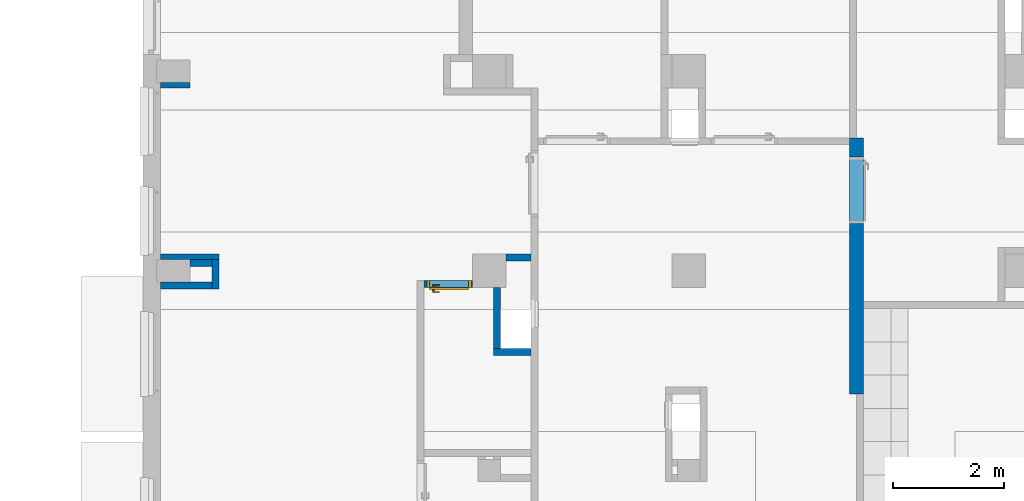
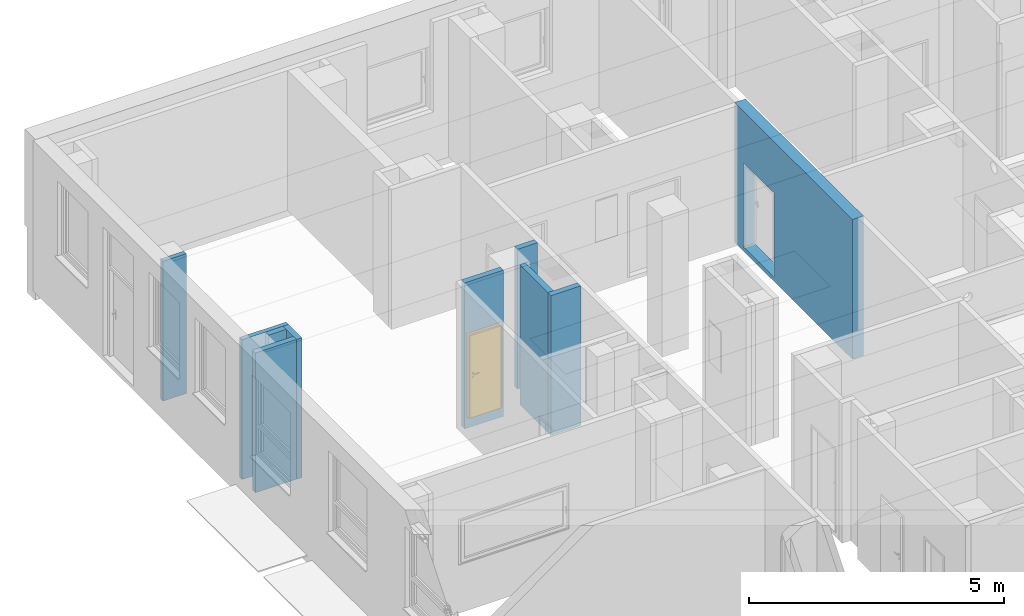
# One storey, part 48 of 140: 10 walls, 1 door, 2 openings.
"""IFC4 building model written with IfcOpenShell, lengths in metres."""

from ifc_helpers import new_model, entity, si_unit, converted_unit, derived_unit, frame, frame_2d, origin, origin_with_axes, place, context, subcontext, project, spatial, polyline, rectangle, outline, extrude, closed_shell, open_shell, surface_model, source, transform, mapped, material, layer, layer_set, layer_usage, type_object, element, fill, save


model = new_model("IFC4")

# Units and contexts
model_context = context("Model", 3, precision=1e-05, world=origin())
body_context = subcontext(model_context, "Body", "Model", "MODEL_VIEW")
ifc_project = project(units=[si_unit("LENGTHUNIT", "METRE"), si_unit("AREAUNIT", "SQUARE_METRE"), si_unit("VOLUMEUNIT", "CUBIC_METRE"), si_unit("MASSUNIT", "GRAM", prefix="KILO"), converted_unit("PLANEANGLEUNIT", "DEGREE", entity("IfcPlaneAngleMeasure", 0.0174532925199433), si_unit("PLANEANGLEUNIT", "RADIAN"), dimensions=[0, 0, 0, 0, 0, 0, 0]), derived_unit("THERMALTRANSMITTANCEUNIT", [(si_unit("POWERUNIT", "WATT"), 1), (si_unit("THERMODYNAMICTEMPERATUREUNIT", "KELVIN"), -1), (si_unit("LENGTHUNIT", "METRE"), -2)]), derived_unit("VOLUMETRICFLOWRATEUNIT", [(si_unit("LENGTHUNIT", "METRE"), 3), (converted_unit("TIMEUNIT", "hour", entity("IfcTimeMeasure", 3600.0), si_unit("TIMEUNIT", "SECOND"), dimensions=[0, 0, 1, 0, 0, 0, 0]), -1), (si_unit("LENGTHUNIT", "METRE"), -1)])], contexts=[model_context])

# Site, building, storey
site_placement = place(None, origin())
site = spatial("IfcSite", under=ifc_project, at=site_placement, Name="3. ASŘ", CompositionType="ELEMENT")
building_placement = place(site_placement, origin())
building = spatial("IfcBuilding", under=site, at=building_placement, Name="Pavilon C", CompositionType="ELEMENT")
storey_placement = place(building_placement, origin())
storey = spatial("IfcBuildingStorey", under=building, at=storey_placement, Name="Půdorys 1.NP", CompositionType="ELEMENT", Elevation=0.0)

# Wall, opening
ifc_material_1 = material(Name="ZDIVO Z CDm")
ifc_layer_1 = layer(ifc_material_1, 0.25)
ifc_layer_set_1 = layer_set([ifc_layer_1])
ifc_layer_usage_1 = layer_usage(ifc_layer_set_1, "AXIS2", "POSITIVE", 0.0)
wall_1_placement = place(storey_placement, frame((37.5, 22.975, -0.1), z_axis=(0.0, 0.0, 1.0), x_axis=(0.0, 1.0, 0.0)))
wall_1 = element("IfcWall", 1, at=wall_1_placement, inside=storey, material=ifc_layer_usage_1, Name="ZDIVO Z CDm", context=body_context, shape_type="SweptSolid", body=[
    extrude(rectangle(XDim=4.62499999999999, YDim=0.25, at=frame_2d((2.3125, 0.125), x_axis=(1.0, 0.0))), origin_with_axes(), (0.0, 0.0, 1.0), 3.35),
])
opening_1_placement = place(wall_1_placement, frame((3.07499999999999, 0.0, 0.1), z_axis=(0.0, 1.0, 0.0), x_axis=(0.0, 0.0, 1.0)))
element("IfcOpeningElement", 2, at=opening_1_placement, cuts=wall_1, Name="Dveřní otvor", ObjectType="Opening", context=body_context, shape_type="SweptSolid", body=[
    extrude(outline(polyline([(0.0, 1.2), (2.02, 1.2), (2.02, 0.0), (0.0, 0.0), (0.0, 1.2)])), origin_with_axes(), (0.0, 0.0, 1.0), 0.25),
])

# Walls
ifc_material_2 = material(Name="ZDIVO Z CDm")
ifc_layer_2 = layer(ifc_material_2, 0.125)
ifc_layer_set_2 = layer_set([ifc_layer_2])
ifc_layer_usage_2 = layer_usage(ifc_layer_set_2, "AXIS2", "POSITIVE", 0.0)
wall_2_placement = place(storey_placement, frame((31.5, 23.8, -0.1), z_axis=(0.0, 0.0, 1.0), x_axis=(-1.0, 0.0, 0.0)))
element("IfcWall", 3, at=wall_2_placement, inside=storey, material=ifc_layer_usage_2, Name="ZDIVO Z CDm", context=body_context, shape_type="SweptSolid", body=[
    extrude(rectangle(XDim=0.675, YDim=0.125, at=frame_2d((0.3375, 0.0625), x_axis=(1.0, 0.0))), origin_with_axes(), (0.0, 0.0, 1.0), 3.35),
])
ifc_material_3 = material(Name="ZDIVO Z CDm")
ifc_layer_3 = layer(ifc_material_3, 0.125)
ifc_layer_set_3 = layer_set([ifc_layer_3])
ifc_layer_usage_3 = layer_usage(ifc_layer_set_3, "AXIS2", "POSITIVE", 0.0)
wall_3_placement = place(storey_placement, frame((30.95, 23.8, -0.1), z_axis=(0.0, 0.0, 1.0), x_axis=(0.0, 1.0, 0.0)))
element("IfcWall", 4, at=wall_3_placement, inside=storey, material=ifc_layer_usage_3, Name="ZDIVO Z CDm", context=body_context, shape_type="SweptSolid", body=[
    extrude(rectangle(XDim=1.1, YDim=0.125, at=frame_2d((0.55, 0.0625), x_axis=(1.0, 0.0))), origin_with_axes(), (0.0, 0.0, 1.0), 3.35),
])
ifc_material_4 = material(Name="ZDIVO Z CDm")
ifc_layer_4 = layer(ifc_material_4, 0.125)
ifc_layer_set_4 = layer_set([ifc_layer_4])
ifc_layer_usage_4 = layer_usage(ifc_layer_set_4, "AXIS2", "POSITIVE", 0.0)
wall_4_placement = place(storey_placement, frame((31.5, 25.5, -0.1), z_axis=(0.0, 0.0, 1.0), x_axis=(-1.0, 0.0, 0.0)))
element("IfcWall", 5, at=wall_4_placement, inside=storey, material=ifc_layer_usage_4, Name="ZDIVO Z CDm", context=body_context, shape_type="SweptSolid", body=[
    extrude(rectangle(XDim=0.449999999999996, YDim=0.125, at=frame_2d((0.224999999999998, 0.0625), x_axis=(1.0, 0.0))), origin_with_axes(), (0.0, 0.0, 1.0), 3.35),
])

# Wall, opening, door
ifc_material_5 = material(Name="YTONG 125")
ifc_layer_5 = layer(ifc_material_5, 0.125)
ifc_layer_set_5 = layer_set([ifc_layer_5])
ifc_layer_usage_5 = layer_usage(ifc_layer_set_5, "AXIS2", "POSITIVE", 0.0)
wall_5_placement = place(storey_placement, frame((29.575, 24.9, -0.25)))
wall_5 = element("IfcWall", 6, at=wall_5_placement, inside=storey, material=ifc_layer_usage_5, Name="YTONG 125", context=body_context, shape_type="SweptSolid", body=[
    extrude(rectangle(XDim=0.875000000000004, YDim=0.125, at=frame_2d((0.437500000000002, 0.0625), x_axis=(1.0, 0.0))), origin_with_axes(), (0.0, 0.0, 1.0), 3.5),
])
opening_2_placement = place(wall_5_placement, frame((0.05, 0.0, 0.25), z_axis=(0.0, 1.0, 0.0), x_axis=(0.0, 0.0, 1.0)))
opening_2 = element("IfcOpeningElement", 7, at=opening_2_placement, cuts=wall_5, Name="Dveřní otvor", ObjectType="Opening", context=body_context, shape_type="SweptSolid", body=[
    extrude(outline(polyline([(0.0, 0.8), (2.02, 0.8), (2.02, 0.0), (0.0, 0.0), (0.0, 0.8)])), origin_with_axes(), (0.0, 0.0, 1.0), 0.125),
])
door_type = type_object("IfcDoorType", Name="D101", OperationType="NOTDEFINED", ParameterTakesPrecedence=False, PredefinedType="DOOR")
shared_shape = source(origin_with_axes(), body_context, "Body", "SurfaceModel", [
    surface_model("IfcShellBasedSurfaceModel", [(0.0, 0.125, 2.02), (0.0, 0.125, -7.65404249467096e-18), (0.05, 0.125, -7.65404249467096e-18), (0.05, 0.125, 2.02), (0.0, 0.0, 7.65404249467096e-18), (0.0, 2.41584530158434e-16, 2.02), (0.05, 2.41584530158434e-16, 2.02), (0.05, 0.0, 7.65404249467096e-18)], [closed_shell([[[0, 1, 2, 3]], [[4, 5, 6, 7]], [[1, 0, 5, 4]], [[2, 1, 4, 7]], [[3, 2, 7, 6]], [[0, 3, 6, 5]]], orient=[[False], [False], [False], [False], [False], [False]])]),
    surface_model("IfcShellBasedSurfaceModel", [(0.75, 0.125, 2.02), (0.75, 0.125, -7.65404249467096e-18), (0.8, 0.125, -7.65404249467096e-18), (0.8, 0.125, 2.02), (0.75, 0.0, 7.65404249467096e-18), (0.75, 2.41584530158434e-16, 2.02), (0.8, 2.41584530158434e-16, 2.02), (0.8, 0.0, 7.65404249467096e-18)], [closed_shell([[[0, 1, 2, 3]], [[4, 5, 6, 7]], [[1, 0, 5, 4]], [[2, 1, 4, 7]], [[3, 2, 7, 6]], [[0, 3, 6, 5]]], orient=[[False], [False], [False], [False], [False], [False]])]),
    surface_model("IfcShellBasedSurfaceModel", [(0.05, 0.125, 2.02), (0.05, 0.125, 1.97), (0.75, 0.125, 1.97), (0.75, 0.125, 2.02), (0.05, 2.41584530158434e-16, 1.97), (0.05, 2.41584530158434e-16, 2.02), (0.75, 2.41584530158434e-16, 2.02), (0.75, 2.41584530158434e-16, 1.97)], [closed_shell([[[0, 1, 2, 3]], [[4, 5, 6, 7]], [[1, 0, 5, 4]], [[2, 1, 4, 7]], [[3, 2, 7, 6]], [[0, 3, 6, 5]]], orient=[[False], [False], [False], [False], [False], [False]])]),
    surface_model("IfcShellBasedSurfaceModel", [(0.05, 0.165, 1.97), (0.05, 0.165, -1.25526296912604e-17), (0.75, 0.165, -1.25526296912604e-17), (0.75, 0.165, 1.97), (0.05, 0.125, -7.65404249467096e-18), (0.05, 0.125, 1.97), (0.75, 0.125, 1.97), (0.75, 0.125, -7.65404249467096e-18)], [closed_shell([[[0, 1, 2, 3]], [[4, 5, 6, 7]], [[1, 0, 5, 4]], [[2, 1, 4, 7]], [[3, 2, 7, 6]], [[0, 3, 6, 5]]], orient=[[False], [False], [False], [False], [False], [False]])]),
    surface_model("IfcShellBasedSurfaceModel", [(0.708815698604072, 0.125, 0.93625), (0.7125, 0.125, 0.95), (0.708815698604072, 0.125, 0.96375), (0.69875, 0.125, 0.973815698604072), (0.685, 0.125, 0.9775), (0.67125, 0.125, 0.973815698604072), (0.661184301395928, 0.125, 0.96375), (0.6575, 0.125, 0.95), (0.661184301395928, 0.125, 0.93625), (0.67125, 0.125, 0.926184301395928), (0.685, 0.125, 0.9225), (0.69875, 0.125, 0.926184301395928), (0.7125, 0.1125, 0.95), (0.708815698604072, 0.1125, 0.93625), (0.69875, 0.1125, 0.926184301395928), (0.685, 0.1125, 0.9225), (0.67125, 0.1125, 0.926184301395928), (0.661184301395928, 0.1125, 0.93625), (0.6575, 0.1125, 0.95), (0.661184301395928, 0.1125, 0.96375), (0.67125, 0.1125, 0.973815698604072), (0.685, 0.1125, 0.9775), (0.69875, 0.1125, 0.973815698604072), (0.708815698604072, 0.1125, 0.96375)], [closed_shell([[[0, 1, 2, 3, 4, 5, 6, 7, 8, 9, 10, 11]], [[12, 13, 14, 15, 16, 17, 18, 19, 20, 21, 22, 23]], [[1, 0, 13, 12]], [[2, 1, 12, 23]], [[3, 2, 23, 22]], [[4, 3, 22, 21]], [[5, 4, 21, 20]], [[6, 5, 20, 19]], [[7, 6, 19, 18]], [[8, 7, 18, 17]], [[9, 8, 17, 16]], [[10, 9, 16, 15]], [[11, 10, 15, 14]], [[0, 11, 14, 13]]], orient=[[False], [False], [False], [False], [False], [False], [False], [False], [False], [False], [False], [False], [False], [False]])]),
    surface_model("IfcShellBasedSurfaceModel", [(0.708815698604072, 0.125, 1.03625), (0.7125, 0.125, 1.05), (0.708815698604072, 0.125, 1.06375), (0.69875, 0.125, 1.07381569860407), (0.685, 0.125, 1.0775), (0.67125, 0.125, 1.07381569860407), (0.661184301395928, 0.125, 1.06375), (0.6575, 0.125, 1.05), (0.661184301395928, 0.125, 1.03625), (0.67125, 0.125, 1.02618430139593), (0.685, 0.125, 1.0225), (0.69875, 0.125, 1.02618430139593), (0.7125, 0.1125, 1.05), (0.708815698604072, 0.1125, 1.03625), (0.69875, 0.1125, 1.02618430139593), (0.685, 0.1125, 1.0225), (0.67125, 0.1125, 1.02618430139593), (0.661184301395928, 0.1125, 1.03625), (0.6575, 0.1125, 1.05), (0.661184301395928, 0.1125, 1.06375), (0.67125, 0.1125, 1.07381569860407), (0.685, 0.1125, 1.0775), (0.69875, 0.1125, 1.07381569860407), (0.708815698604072, 0.1125, 1.06375)], [closed_shell([[[0, 1, 2, 3, 4, 5, 6, 7, 8, 9, 10, 11]], [[12, 13, 14, 15, 16, 17, 18, 19, 20, 21, 22, 23]], [[1, 0, 13, 12]], [[2, 1, 12, 23]], [[3, 2, 23, 22]], [[4, 3, 22, 21]], [[5, 4, 21, 20]], [[6, 5, 20, 19]], [[7, 6, 19, 18]], [[8, 7, 18, 17]], [[9, 8, 17, 16]], [[10, 9, 16, 15]], [[11, 10, 15, 14]], [[0, 11, 14, 13]]], orient=[[False], [False], [False], [False], [False], [False], [False], [False], [False], [False], [False], [False], [False], [False]])]),
    surface_model("IfcShellBasedSurfaceModel", [(0.685, 0.125, 1.06), (0.68, 0.125, 1.05866025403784), (0.676339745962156, 0.125, 1.055), (0.675, 0.125, 1.05), (0.676339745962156, 0.125, 1.045), (0.68, 0.125, 1.04133974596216), (0.685, 0.125, 1.04), (0.69, 0.125, 1.04133974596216), (0.693660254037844, 0.125, 1.045), (0.695, 0.125, 1.05), (0.693660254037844, 0.125, 1.055), (0.69, 0.125, 1.05866025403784), (0.69, 0.0800000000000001, 1.05866025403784), (0.685, 0.0850000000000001, 1.06), (0.693660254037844, 0.0763397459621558, 1.055), (0.695, 0.0750000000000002, 1.05), (0.693660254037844, 0.0763397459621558, 1.045), (0.69, 0.0800000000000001, 1.04133974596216), (0.685, 0.0850000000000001, 1.04), (0.68, 0.0900000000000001, 1.04133974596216), (0.676339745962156, 0.0936602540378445, 1.045), (0.675, 0.0950000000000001, 1.05), (0.676339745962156, 0.0936602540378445, 1.055), (0.68, 0.0900000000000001, 1.05866025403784), (0.57, 0.0800000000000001, 1.05866025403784), (0.57, 0.0850000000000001, 1.06), (0.57, 0.0763397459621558, 1.055), (0.57, 0.0750000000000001, 1.05), (0.57, 0.0763397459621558, 1.045), (0.57, 0.0800000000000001, 1.04133974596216), (0.57, 0.0850000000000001, 1.04), (0.57, 0.0900000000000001, 1.04133974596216), (0.57, 0.0936602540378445, 1.045), (0.57, 0.0950000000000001, 1.05), (0.57, 0.0936602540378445, 1.055), (0.57, 0.0900000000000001, 1.05866025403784)], [open_shell([[[0, 1, 2, 3, 4, 5, 6, 7, 8, 9, 10, 11]], [[0, 11, 12, 13]], [[11, 10, 14, 12]], [[10, 9, 15, 14]], [[9, 8, 16, 15]], [[8, 7, 17, 16]], [[7, 6, 18, 17]], [[6, 5, 19, 18]], [[5, 4, 20, 19]], [[4, 3, 21, 20]], [[3, 2, 22, 21]], [[2, 1, 23, 22]], [[1, 0, 13, 23]], [[13, 12, 24, 25]], [[12, 14, 26, 24]], [[14, 15, 27, 26]], [[15, 16, 28, 27]], [[16, 17, 29, 28]], [[17, 18, 30, 29]], [[18, 19, 31, 30]], [[19, 20, 32, 31]], [[20, 21, 33, 32]], [[21, 22, 34, 33]], [[22, 23, 35, 34]], [[23, 13, 25, 35]]], orient=[[False], [False], [False], [False], [False], [False], [False], [False], [False], [False], [False], [False], [False], [False], [False], [False], [False], [False], [False], [False], [False], [False], [False], [False], [False]])]),
    surface_model("IfcShellBasedSurfaceModel", [(0.708815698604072, 0.165, 0.93625), (0.69875, 0.165, 0.926184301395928), (0.685, 0.165, 0.9225), (0.67125, 0.165, 0.926184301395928), (0.661184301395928, 0.165, 0.93625), (0.6575, 0.165, 0.95), (0.661184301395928, 0.165, 0.96375), (0.67125, 0.165, 0.973815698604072), (0.685, 0.165, 0.9775), (0.69875, 0.165, 0.973815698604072), (0.708815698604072, 0.165, 0.96375), (0.7125, 0.165, 0.95), (0.7125, 0.1775, 0.95), (0.708815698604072, 0.1775, 0.96375), (0.69875, 0.1775, 0.973815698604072), (0.685, 0.1775, 0.9775), (0.67125, 0.1775, 0.973815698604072), (0.661184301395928, 0.1775, 0.96375), (0.6575, 0.1775, 0.95), (0.661184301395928, 0.1775, 0.93625), (0.67125, 0.1775, 0.926184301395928), (0.685, 0.1775, 0.9225), (0.69875, 0.1775, 0.926184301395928), (0.708815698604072, 0.1775, 0.93625)], [closed_shell([[[0, 1, 2, 3, 4, 5, 6, 7, 8, 9, 10, 11]], [[12, 13, 14, 15, 16, 17, 18, 19, 20, 21, 22, 23]], [[11, 12, 23, 0]], [[10, 13, 12, 11]], [[9, 14, 13, 10]], [[8, 15, 14, 9]], [[7, 16, 15, 8]], [[6, 17, 16, 7]], [[5, 18, 17, 6]], [[4, 19, 18, 5]], [[3, 20, 19, 4]], [[2, 21, 20, 3]], [[1, 22, 21, 2]], [[0, 23, 22, 1]]], orient=[[False], [False], [False], [False], [False], [False], [False], [False], [False], [False], [False], [False], [False], [False]])]),
    surface_model("IfcShellBasedSurfaceModel", [(0.708815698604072, 0.165, 1.03625), (0.69875, 0.165, 1.02618430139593), (0.685, 0.165, 1.0225), (0.67125, 0.165, 1.02618430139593), (0.661184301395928, 0.165, 1.03625), (0.6575, 0.165, 1.05), (0.661184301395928, 0.165, 1.06375), (0.67125, 0.165, 1.07381569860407), (0.685, 0.165, 1.0775), (0.69875, 0.165, 1.07381569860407), (0.708815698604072, 0.165, 1.06375), (0.7125, 0.165, 1.05), (0.7125, 0.1775, 1.05), (0.708815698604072, 0.1775, 1.06375), (0.69875, 0.1775, 1.07381569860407), (0.685, 0.1775, 1.0775), (0.67125, 0.1775, 1.07381569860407), (0.661184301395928, 0.1775, 1.06375), (0.6575, 0.1775, 1.05), (0.661184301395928, 0.1775, 1.03625), (0.67125, 0.1775, 1.02618430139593), (0.685, 0.1775, 1.0225), (0.69875, 0.1775, 1.02618430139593), (0.708815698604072, 0.1775, 1.03625)], [closed_shell([[[0, 1, 2, 3, 4, 5, 6, 7, 8, 9, 10, 11]], [[12, 13, 14, 15, 16, 17, 18, 19, 20, 21, 22, 23]], [[11, 12, 23, 0]], [[10, 13, 12, 11]], [[9, 14, 13, 10]], [[8, 15, 14, 9]], [[7, 16, 15, 8]], [[6, 17, 16, 7]], [[5, 18, 17, 6]], [[4, 19, 18, 5]], [[3, 20, 19, 4]], [[2, 21, 20, 3]], [[1, 22, 21, 2]], [[0, 23, 22, 1]]], orient=[[False], [False], [False], [False], [False], [False], [False], [False], [False], [False], [False], [False], [False], [False]])]),
    surface_model("IfcShellBasedSurfaceModel", [(0.685, 0.165, 1.06), (0.69, 0.165, 1.05866025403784), (0.693660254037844, 0.165, 1.055), (0.695, 0.165, 1.05), (0.693660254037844, 0.165, 1.045), (0.69, 0.165, 1.04133974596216), (0.685, 0.165, 1.04), (0.68, 0.165, 1.04133974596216), (0.676339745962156, 0.165, 1.045), (0.675, 0.165, 1.05), (0.676339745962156, 0.165, 1.055), (0.68, 0.165, 1.05866025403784), (0.685, 0.205, 1.06), (0.69, 0.21, 1.05866025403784), (0.693660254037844, 0.213660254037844, 1.055), (0.695, 0.215, 1.05), (0.693660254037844, 0.213660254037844, 1.045), (0.69, 0.21, 1.04133974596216), (0.685, 0.205, 1.04), (0.68, 0.2, 1.04133974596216), (0.676339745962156, 0.196339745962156, 1.045), (0.675, 0.195, 1.05), (0.676339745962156, 0.196339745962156, 1.055), (0.68, 0.2, 1.05866025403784), (0.57, 0.205, 1.06), (0.57, 0.21, 1.05866025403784), (0.57, 0.213660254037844, 1.055), (0.57, 0.215, 1.05), (0.57, 0.213660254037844, 1.045), (0.57, 0.21, 1.04133974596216), (0.57, 0.205, 1.04), (0.57, 0.2, 1.04133974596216), (0.57, 0.196339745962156, 1.045), (0.57, 0.195, 1.05), (0.57, 0.196339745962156, 1.055), (0.57, 0.2, 1.05866025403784)], [open_shell([[[0, 1, 2, 3, 4, 5, 6, 7, 8, 9, 10, 11]], [[0, 12, 13, 1]], [[1, 13, 14, 2]], [[2, 14, 15, 3]], [[3, 15, 16, 4]], [[4, 16, 17, 5]], [[5, 17, 18, 6]], [[6, 18, 19, 7]], [[7, 19, 20, 8]], [[8, 20, 21, 9]], [[9, 21, 22, 10]], [[10, 22, 23, 11]], [[11, 23, 12, 0]], [[12, 24, 25, 13]], [[13, 25, 26, 14]], [[14, 26, 27, 15]], [[15, 27, 28, 16]], [[16, 28, 29, 17]], [[17, 29, 30, 18]], [[18, 30, 31, 19]], [[19, 31, 32, 20]], [[20, 32, 33, 21]], [[21, 33, 34, 22]], [[22, 34, 35, 23]], [[23, 35, 24, 12]]], orient=[[False], [False], [False], [False], [False], [False], [False], [False], [False], [False], [False], [False], [False], [False], [False], [False], [False], [False], [False], [False], [False], [False], [False], [False], [False]])]),
])
door_placement = place(opening_2_placement, frame((0.0, 0.8, 0.125), z_axis=(1.0, 0.0, 0.0), x_axis=(0.0, -1.0, 1.22464679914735e-16)))
door = element("IfcDoor", 8, at=door_placement, inside=storey, type_object=door_type, Name="D101", OverallHeight=2.02, OverallWidth=0.8, context=body_context, shape_type="MappedRepresentation", body=[
    mapped(shared_shape, transform((0.0, 0.0, 0.0), x_axis=(1.0, 0.0, 0.0), y_axis=(0.0, 1.0, 0.0), z_axis=(0.0, 0.0, 1.0), scale=1.0)),
])
fill(opening_2, door)

# Walls
ifc_material_6 = material(Name="ZDIVO Z CDm")
ifc_layer_6 = layer(ifc_material_6, 0.125)
ifc_layer_set_6 = layer_set([ifc_layer_6])
ifc_layer_usage_6 = layer_usage(ifc_layer_set_6, "AXIS2", "POSITIVE", 0.0)
wall_6_placement = place(storey_placement, frame((25.75, 25.4, -0.1), z_axis=(0.0, 0.0, 1.0), x_axis=(0.0, -1.0, 0.0)))
element("IfcWall", 9, at=wall_6_placement, inside=storey, material=ifc_layer_usage_6, Name="ZDIVO Z CDm", context=body_context, shape_type="SweptSolid", body=[
    extrude(rectangle(XDim=0.525, YDim=0.125, at=frame_2d((0.2625, 0.0625), x_axis=(1.0, 0.0))), origin_with_axes(), (0.0, 0.0, 1.0), 3.35),
])
ifc_material_7 = material(Name="ZDIVO Z CDm")
ifc_layer_7 = layer(ifc_material_7, 0.125)
ifc_layer_set_7 = layer_set([ifc_layer_7])
ifc_layer_usage_7 = layer_usage(ifc_layer_set_7, "AXIS2", "POSITIVE", 0.0)
wall_7_placement = place(storey_placement, frame((25.75, 25.0, -0.1), z_axis=(0.0, 0.0, 1.0), x_axis=(-1.0, 0.0, 0.0)))
element("IfcWall", 10, at=wall_7_placement, inside=storey, material=ifc_layer_usage_7, Name="ZDIVO Z CDm", context=body_context, shape_type="SweptSolid", body=[
    extrude(rectangle(XDim=0.929999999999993, YDim=0.125, at=frame_2d((0.464999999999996, 0.0625), x_axis=(1.0, 0.0))), origin_with_axes(), (0.0, 0.0, 1.0), 3.35),
])
ifc_material_8 = material(Name="ZDIVO Z CDm")
ifc_layer_8 = layer(ifc_material_8, 0.125)
ifc_layer_set_8 = layer_set([ifc_layer_8])
ifc_layer_usage_8 = layer_usage(ifc_layer_set_8, "AXIS2", "POSITIVE", 0.0)
wall_8_placement = place(storey_placement, frame((25.75, 25.4, -0.1), z_axis=(0.0, 0.0, 1.0), x_axis=(-1.0, 0.0, 0.0)))
element("IfcWall", 11, at=wall_8_placement, inside=storey, material=ifc_layer_usage_8, Name="ZDIVO Z CDm", context=body_context, shape_type="SweptSolid", body=[
    extrude(rectangle(XDim=0.4, YDim=0.125, at=frame_2d((0.2, 0.0625), x_axis=(1.0, 0.0))), origin_with_axes(), (0.0, 0.0, 1.0), 3.35),
])
ifc_material_9 = material(Name="YTONG 100")
ifc_layer_9 = layer(ifc_material_9, 0.1)
ifc_layer_set_9 = layer_set([ifc_layer_9])
ifc_layer_usage_9 = layer_usage(ifc_layer_set_9, "AXIS2", "POSITIVE", 0.0)
wall_9_placement = place(storey_placement, frame((24.82, 25.4, -0.1)))
element("IfcWall", 12, at=wall_9_placement, inside=storey, material=ifc_layer_usage_9, Name="YTONG 100", context=body_context, shape_type="SweptSolid", body=[
    extrude(rectangle(XDim=1.05499999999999, YDim=0.1, at=frame_2d((0.527499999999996, 0.05), x_axis=(1.0, 0.0))), origin_with_axes(), (0.0, 0.0, 1.0), 3.35),
])
ifc_material_10 = material(Name="YTONG 100")
ifc_layer_10 = layer(ifc_material_10, 0.1)
ifc_layer_set_10 = layer_set([ifc_layer_10])
ifc_layer_usage_10 = layer_usage(ifc_layer_set_10, "AXIS2", "POSITIVE", 0.0)
wall_10_placement = place(storey_placement, frame((25.35, 28.6, -0.1), z_axis=(0.0, 0.0, 1.0), x_axis=(-1.0, 0.0, 0.0)))
element("IfcWall", 13, at=wall_10_placement, inside=storey, material=ifc_layer_usage_10, Name="YTONG 100", context=body_context, shape_type="SweptSolid", body=[
    extrude(rectangle(XDim=0.529999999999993, YDim=0.1, at=frame_2d((0.264999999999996, 0.05), x_axis=(1.0, 0.0))), origin_with_axes(), (0.0, 0.0, 1.0), 3.35),
])

save(model, "model.ifc")
